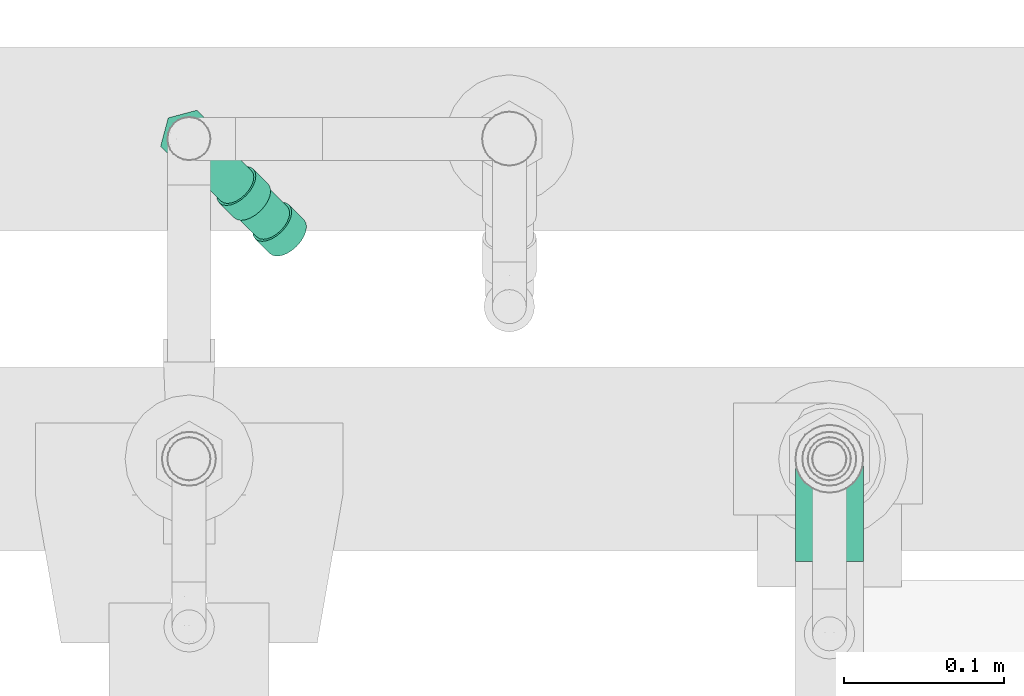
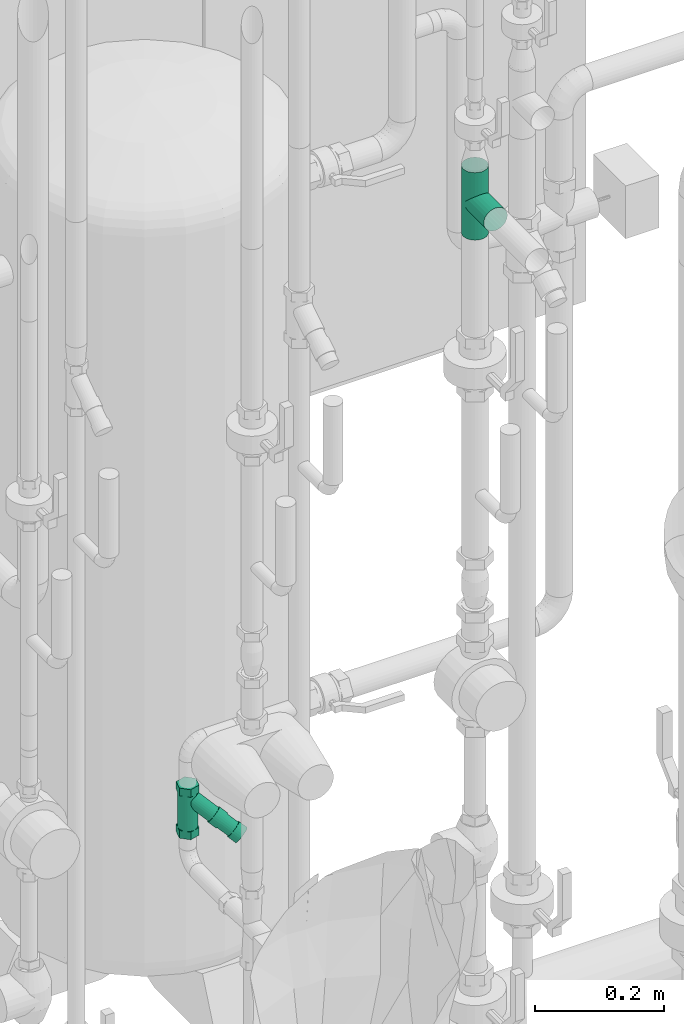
# One storey, part 105 of 374: 1 flow fitting, 1 flow treatment device.
"""IFC2X3 building model written with IfcOpenShell, lengths in metres."""

import ifcopenshell
import ifcopenshell.guid

model = None  # the IFC model being written
_history = None  # IfcOwnerHistory: only IFC2X3 demands one
_inside = {}  # id of a spatial element -> (the spatial element, [elements in it])
_under = {}  # id of a project, library or spatial element -> (it, [spatial elements below it])
_declared = {}  # id of a project -> (the project, [libraries it declares])
_typed = {}  # id of a type object -> (the type object, [elements of that type])
_made_of = {}  # id of a material, layer set ... -> (it, [elements and type objects made of it])


def new_model(schema):
    """Start an empty IFC model of exactly this schema.

    Asked for "IFC4X3", IfcOpenShell would pick the latest addendum, in which some entities
    have other attributes; the version numbers below select the first issue.
    IFC2X3 requires an IfcOwnerHistory on every rooted entity: one is made here for all.
    """
    global model, _history
    if schema == "IFC4X3":
        model = ifcopenshell.file(schema_version=(4, 3, 0, 0))
    else:
        model = ifcopenshell.file(schema=schema)
    _inside.clear()
    _under.clear()
    _declared.clear()
    _typed.clear()
    _made_of.clear()
    _history = None
    if model.schema == "IFC2X3":
        org = make("IfcOrganization", Name="unknown")
        user = make(
            "IfcPersonAndOrganization",
            ThePerson=make("IfcPerson", FamilyName="unknown"),
            TheOrganization=org,
        )
        app = make(
            "IfcApplication",
            ApplicationDeveloper=org,
            Version="unknown",
            ApplicationFullName="unknown",
            ApplicationIdentifier="unknown",
        )
        _history = make(
            "IfcOwnerHistory",
            OwningUser=user,
            OwningApplication=app,
            ChangeAction="ADDED",
            CreationDate=0,
        )
    return model


def make(cls, **values):
    """One entity of the class cls with the attributes given. An attribute that is None is left unset."""
    return model.create_entity(
        cls, **{name: value for name, value in values.items() if value is not None}
    )


def rooted(cls, **values):
    """An entity with a GlobalId (a new one), such as an element, a storey or a relation."""
    return make(cls, GlobalId=ifcopenshell.guid.new(), OwnerHistory=_history, **values)


def si_unit(unit_type, name, prefix=None):
    """IfcSIUnit, for example si_unit("LENGTHUNIT", "METRE", prefix="MILLI")."""
    return make("IfcSIUnit", UnitType=unit_type, Prefix=prefix, Name=name)


def assignment(units):
    """IfcUnitAssignment: the units of a project."""
    return None if units is None else make("IfcUnitAssignment", Units=units)


def point(xyz):
    """IfcCartesianPoint."""
    return None if xyz is None else make("IfcCartesianPoint", Coordinates=xyz)


def direction(xyz):
    """IfcDirection."""
    return None if xyz is None else make("IfcDirection", DirectionRatios=xyz)


def frame(location, z_axis=None, x_axis=None):
    """IfcAxis2Placement3D, a coordinate frame: its origin and axes. An axis left out is left unset."""
    return make(
        "IfcAxis2Placement3D",
        Location=point(location),
        Axis=direction(z_axis),
        RefDirection=direction(x_axis),
    )


def origin():
    """The frame at (0, 0, 0) with its axes left unset."""
    return frame((0.0, 0.0, 0.0))


def place(relative_to, where):
    """IfcLocalPlacement: puts the frame where relative to a parent placement (None: the world)."""
    return make(
        "IfcLocalPlacement", PlacementRelTo=relative_to, RelativePlacement=where
    )


def context(
    kind, dimensions, precision=None, world=None, true_north=None, identifier=None
):
    """IfcGeometricRepresentationContext, for example the 3D "Model" context."""
    return make(
        "IfcGeometricRepresentationContext",
        ContextIdentifier=identifier,
        ContextType=kind,
        CoordinateSpaceDimension=dimensions,
        Precision=precision,
        WorldCoordinateSystem=world,
        TrueNorth=true_north,
    )


def subcontext(parent, identifier, kind, view, scale=None):
    """IfcGeometricRepresentationSubContext, for example "Body" below "Model"."""
    return make(
        "IfcGeometricRepresentationSubContext",
        ContextIdentifier=identifier,
        ContextType=kind,
        ParentContext=parent,
        TargetScale=scale,
        TargetView=view,
    )


def project(units=None, contexts=None):
    """IfcProject with its units and contexts."""
    return rooted(
        "IfcProject",
        Name="project",
        RepresentationContexts=contexts,
        UnitsInContext=assignment(units),
    )


def spatial(cls, under=None, at=None, **own):
    """A site, building, storey or space (cls), placed at a placement, below another one or the project."""
    s = rooted(cls, ObjectPlacement=at, **own)
    if under is not None:
        _under.setdefault(under.id(), (under, []))[1].append(s)
    return s


def faces_of(points, faces, orient=None, outer=None):
    """IfcFace entities. A face is a list of loops; a loop is a list of indices into points, from 0.

    orient and outer hold one flag for each loop. By default every Orientation is true, the
    first loop of a face is its IfcFaceOuterBound and the others are IfcFaceBound.
    """
    made = []
    for i, loops in enumerate(faces):
        bounds = []
        for j, loop in enumerate(loops):
            is_outer = j == 0 if outer is None else outer[i][j]
            bounds.append(
                make(
                    "IfcFaceOuterBound" if is_outer else "IfcFaceBound",
                    Bound=make("IfcPolyLoop", Polygon=[points[k] for k in loop]),
                    Orientation=True if orient is None else orient[i][j],
                )
            )
        made.append(make("IfcFace", Bounds=bounds))
    return made


def open_shell(faces, orient=None, outer=None):
    """The faces of one IfcOpenShell. surface_model builds it on its shared points."""
    return ("IfcOpenShell", faces, orient, outer)


def surface_model(cls, points, shells):
    """IfcFaceBasedSurfaceModel or IfcShellBasedSurfaceModel (cls): surfaces that need not close."""
    shared = [point(p) for p in points]
    made = [make(c, CfsFaces=faces_of(shared, fs, o, b)) for c, fs, o, b in shells]
    if cls == "IfcFaceBasedSurfaceModel":
        return make(cls, FbsmFaces=made)
    return make(cls, SbsmBoundary=made)


def shape(context_of_items, identifier, shape_type, items):
    """IfcShapeRepresentation: the items that make up one representation, for example the "Body"."""
    return make(
        "IfcShapeRepresentation",
        ContextOfItems=context_of_items,
        RepresentationIdentifier=identifier,
        RepresentationType=shape_type,
        Items=items,
    )


def source(mapping_origin, context_of_items, identifier, shape_type, items):
    """IfcRepresentationMap: a shape defined once, which mapped items show again and again."""
    return make(
        "IfcRepresentationMap",
        MappingOrigin=mapping_origin,
        MappedRepresentation=shape(context_of_items, identifier, shape_type, items),
    )


def transform(
    local_origin,
    x_axis=None,
    y_axis=None,
    z_axis=None,
    scale=None,
    scale2=None,
    scale3=None,
    uniform=True,
):
    """IfcCartesianTransformationOperator3D, or its non-uniform kind. x_axis, y_axis, z_axis: its Axis1, 2, 3."""
    if uniform:
        return make(
            "IfcCartesianTransformationOperator3D",
            Axis1=direction(x_axis),
            Axis2=direction(y_axis),
            LocalOrigin=point(local_origin),
            Scale=scale,
            Axis3=direction(z_axis),
        )
    return make(
        "IfcCartesianTransformationOperator3DnonUniform",
        Axis1=direction(x_axis),
        Axis2=direction(y_axis),
        LocalOrigin=point(local_origin),
        Scale=scale,
        Axis3=direction(z_axis),
        Scale2=scale2,
        Scale3=scale3,
    )


def mapped(mapping_source, mapping_target):
    """IfcMappedItem: shows the shape of a source again, moved by a transform."""
    return make(
        "IfcMappedItem", MappingSource=mapping_source, MappingTarget=mapping_target
    )


def made_of(thing, what):
    """Note that an element or type object is made of a material, layer set ...; save() writes the relation."""
    if what is not None:
        _made_of.setdefault(what.id(), (what, []))[1].append(thing)
    return thing


def element(
    cls,
    number,
    at=None,
    inside=None,
    cuts=None,
    type_object=None,
    material=None,
    context=None,
    identifier="Body",
    shape_type=None,
    held_by="IfcProductDefinitionShape",
    body=None,
    shapes=None,
    **own,
):
    """One element of the class cls, such as IfcWall. Its Tag is "e" and its number.

    at: its placement. inside: the storey or other place that contains it. cuts: it is an
    opening in that element (IfcRelVoidsElement). A single representation is given by context,
    identifier, shape_type and body (its items); several are given by shapes. held_by: the class
    of the entity that holds the representations. save() writes the other relations.
    """
    e = rooted(cls, Tag="e%d" % number, ObjectPlacement=at, **own)
    if body is not None:
        shapes = [shape(context, identifier, shape_type, body)]
    if shapes is not None:
        e.Representation = make(held_by, Representations=shapes)
    if inside is not None:
        _inside.setdefault(inside.id(), (inside, []))[1].append(e)
    if cuts is not None:
        rooted(
            "IfcRelVoidsElement", RelatingBuildingElement=cuts, RelatedOpeningElement=e
        )
    if type_object is not None:
        _typed.setdefault(type_object.id(), (type_object, []))[1].append(e)
    return made_of(e, material)


def aggregate(whole, parts):
    """IfcRelAggregates: a whole, such as a stair, and the parts it consists of."""
    return rooted("IfcRelAggregates", RelatingObject=whole, RelatedObjects=parts)


def save(model, path):
    """Write the relations noted so far, then the file.

    IfcRelAggregates (storeys below a building ...), IfcRelContainedInSpatialStructure (elements
    in a storey), IfcRelDefinesByType, IfcRelAssociatesMaterial and IfcRelDeclares: one each for
    every whole, place, type object, material and project.
    """
    for whole, parts in _under.values():
        aggregate(whole, parts)
    for where, things in _inside.values():
        rooted(
            "IfcRelContainedInSpatialStructure",
            RelatedElements=things,
            RelatingStructure=where,
        )
    for kind, things in _typed.values():
        rooted("IfcRelDefinesByType", RelatedObjects=things, RelatingType=kind)
    for what, things in _made_of.values():
        rooted("IfcRelAssociatesMaterial", RelatedObjects=things, RelatingMaterial=what)
    for by, libraries in _declared.values():
        rooted("IfcRelDeclares", RelatingContext=by, RelatedDefinitions=libraries)
    model.write(path)


model = new_model("IFC2X3")

# Units and contexts
model_context = context("Model", 3, precision=1e-05, world=origin(), true_north=direction((-0.4480736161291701, 0.8939966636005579)))
body_context = subcontext(model_context, "Body", "Model", "MODEL_VIEW")
ifc_project = project(units=[si_unit("LENGTHUNIT", "METRE"), si_unit("AREAUNIT", "SQUARE_METRE"), si_unit("VOLUMEUNIT", "CUBIC_METRE"), si_unit("PLANEANGLEUNIT", "RADIAN"), si_unit("THERMODYNAMICTEMPERATUREUNIT", "KELVIN"), si_unit("MASSUNIT", "GRAM", prefix="KILO"), si_unit("TIMEUNIT", "SECOND")], contexts=[model_context])

# Site, building, storey
site_placement = place(None, origin())
site = spatial("IfcSite", under=ifc_project, at=site_placement, Name="Site 1", CompositionType="ELEMENT")
building_placement = place(site_placement, origin())
building = spatial("IfcBuilding", under=site, at=building_placement, Name="Undefined", CompositionType="ELEMENT")
storey_placement = place(building_placement, origin())
storey = spatial("IfcBuildingStorey", under=building, at=storey_placement, Name="Rez de chauss\x8ee", CompositionType="ELEMENT", Elevation=0.0)

# Flow treatment device
shared_shape_1 = source(origin(), body_context, "Body", "SurfaceModel", [
    surface_model("IfcFaceBasedSurfaceModel", [(0.0, 0.0035111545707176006, 0.0), (0.0, 0.0, 0.0), (0.02585578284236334, 7.105427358e-15, 0.0), (0.024975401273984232, 0.003511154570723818, -3.552713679e-15), (0.0, -0.003391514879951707, -0.0009087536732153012), (0.028436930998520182, -0.003391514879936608, -0.0009087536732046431), (0.0, -0.006432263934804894, -0.0026643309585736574), (0.03254294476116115, -0.006432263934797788, -0.0026643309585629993), (0.0, -0.00891502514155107, -0.005147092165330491), (0.03789400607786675, -0.008915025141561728, -0.005147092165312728), (0.0, -0.010670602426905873, -0.008187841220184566), (0.04412544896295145, -0.010670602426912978, -0.008187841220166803), (0.0, -0.011579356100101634, -0.01157935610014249), (0.050812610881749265, -0.011579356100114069, -0.011579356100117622), (0.0, -0.011579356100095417, -0.015090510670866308), (0.04900045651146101, -0.011579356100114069, -0.015090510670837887), (0.0, -0.010670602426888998, -0.018482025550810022), (0.04731179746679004, -0.010670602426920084, -0.018482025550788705), (0.0, -0.008915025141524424, -0.021522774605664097), (0.04586171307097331, -0.008915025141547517, -0.021522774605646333), (0.0, -0.006432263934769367, -0.02400553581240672), (0.04474902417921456, -0.006432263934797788, -0.024005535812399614), (0.0, -0.0033915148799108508, -0.025761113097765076), (0.04404955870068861, -0.003391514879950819, -0.025761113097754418), (0.0, 4.2632564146e-14, -0.026669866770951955), (0.04381098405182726, 7.105427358e-15, -0.02666986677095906), (0.0, 0.0035111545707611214, -0.026669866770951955), (0.04404955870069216, 0.0035111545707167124, -0.026669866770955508), (0.0, 0.006902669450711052, -0.02576111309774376), (0.04474902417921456, 0.006902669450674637, -0.025761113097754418), (0.0, 0.00994341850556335, -0.024005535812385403), (0.04586171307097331, 0.009943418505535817, -0.02400553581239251), (0.0, 0.012426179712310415, -0.02152277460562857), (0.04731179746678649, 0.012426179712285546, -0.021522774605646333), (0.0, 0.014181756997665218, -0.018482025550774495), (0.04900045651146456, 0.014181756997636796, -0.018482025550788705), (0.0, 0.015090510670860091, -0.01509051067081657), (0.050812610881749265, 0.015090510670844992, -0.015090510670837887), (0.0, 0.015090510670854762, -0.011579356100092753), (0.044125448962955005, 0.015090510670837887, -0.011579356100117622), (0.0, 0.014181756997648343, -0.00818784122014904), (0.037894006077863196, 0.014181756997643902, -0.008187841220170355), (0.0, 0.012426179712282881, -0.005147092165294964), (0.03254294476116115, 0.012426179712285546, -0.005147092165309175), (0.0, 0.009943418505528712, -0.002664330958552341), (0.028436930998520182, 0.009943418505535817, -0.0026643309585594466), (0.0, 0.006902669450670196, -0.0009087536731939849), (0.025855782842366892, 0.006902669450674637, -0.0009087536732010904), (0.07112295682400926, -0.015791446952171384, -0.02403705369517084), (0.05598895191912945, -0.01717462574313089, -0.034543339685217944), (0.047672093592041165, -0.015624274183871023, -0.022767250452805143), (0.06280609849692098, -0.014241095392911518, -0.01226096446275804), (0.07868995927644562, 0.000763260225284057, -0.020872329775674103), (0.07037310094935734, 0.002313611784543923, -0.00909624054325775), (0.07112295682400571, 0.0159347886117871, -0.028213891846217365), (0.06280609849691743, 0.017485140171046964, -0.01643780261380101), (0.055988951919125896, 0.014551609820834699, -0.03872017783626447), (0.04767209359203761, 0.016101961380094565, -0.026944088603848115), (0.048421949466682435, -0.002003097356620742, -0.04188490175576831), (0.04010509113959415, -0.00045274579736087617, -0.030108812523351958), (0.05523909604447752, 0.016793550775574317, -0.021690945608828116), (0.05184690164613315, 0.01594299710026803, -0.023974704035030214), (0.013990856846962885, 0.0229997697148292, 0.029626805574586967), (0.017383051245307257, 0.023850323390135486, 0.031910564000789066), (0.048685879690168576, 0.014069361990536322, -0.025960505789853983), (0.010829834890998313, 0.02112613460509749, 0.0276410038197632), (0.04597144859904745, 0.011300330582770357, -0.02751302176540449), (0.008115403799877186, 0.018357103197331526, 0.026088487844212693), (0.04388859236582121, 0.007824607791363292, -0.028526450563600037), (0.006032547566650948, 0.01488138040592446, 0.025075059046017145), (0.042579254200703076, 0.0038790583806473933, -0.028931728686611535), (0.004723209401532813, 0.010935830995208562, 0.024669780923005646), (0.04213266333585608, -0.0002674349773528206, -0.028701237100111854), (0.004276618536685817, 0.006789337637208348, 0.024900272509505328), (0.04257925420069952, -0.004332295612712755, -0.02785068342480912), (0.00472320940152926, 0.0027244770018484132, 0.025750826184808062), (0.04388859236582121, -0.008038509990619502, -0.026438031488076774), (0.006032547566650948, -0.0009817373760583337, 0.027163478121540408), (0.04597144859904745, -0.011133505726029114, -0.024559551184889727), (0.008115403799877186, -0.004076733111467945, 0.029041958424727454), (0.048685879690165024, -0.01340636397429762, -0.022343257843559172), (0.01082983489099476, -0.006349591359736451, 0.03125825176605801), (0.05184690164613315, -0.014702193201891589, -0.019940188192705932), (0.013990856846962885, -0.00764542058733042, 0.03366132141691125), (0.05523909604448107, -0.01493268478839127, -0.01751410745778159), (0.01738305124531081, -0.007875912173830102, 0.03608740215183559), (0.058631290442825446, -0.014082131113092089, -0.015230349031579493), (0.020775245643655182, -0.00702535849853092, 0.03837116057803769), (0.06179231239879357, -0.01220849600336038, -0.013244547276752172), (0.023936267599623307, -0.005151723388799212, 0.04035696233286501), (0.0645067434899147, -0.00943946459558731, -0.011692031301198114), (0.026650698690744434, -0.0023826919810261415, 0.04190947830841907), (0.06658959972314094, -0.005963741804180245, -0.010678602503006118), (0.028733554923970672, 0.0010930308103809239, 0.04292290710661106), (0.06789893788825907, -0.0020181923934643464, -0.010273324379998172), (0.030042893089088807, 0.005038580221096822, 0.04332818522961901), (0.06834552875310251, 0.0021283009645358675, -0.010503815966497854), (0.03048948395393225, 0.009185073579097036, 0.04309769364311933), (0.06789893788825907, 0.006193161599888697, -0.011354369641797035), (0.030042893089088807, 0.013249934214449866, 0.042247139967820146), (0.06658959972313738, 0.00989937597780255, -0.01276702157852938), (0.02873355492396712, 0.016956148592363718, 0.0408344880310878), (0.0645067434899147, 0.012994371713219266, -0.014645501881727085), (0.026650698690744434, 0.020051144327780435, 0.038956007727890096), (0.06179231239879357, 0.015267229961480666, -0.016861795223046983), (0.023936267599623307, 0.022324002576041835, 0.0367397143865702), (0.058631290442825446, 0.01656305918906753, -0.019264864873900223), (0.020775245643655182, 0.0236198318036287, 0.03433664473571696), (0.024950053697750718, -0.007184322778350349, 0.04134054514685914), (0.009816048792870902, -0.008567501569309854, 0.03083425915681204), (0.0014991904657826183, -0.007017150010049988, 0.04261034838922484), (0.016633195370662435, -0.005633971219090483, 0.05311663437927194), (0.032517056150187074, 0.009370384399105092, 0.04450526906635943), (0.02420019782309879, 0.010920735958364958, 0.05628135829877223), (0.024950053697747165, 0.024541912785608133, 0.03716370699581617), (0.016633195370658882, 0.026092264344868, 0.04893979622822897), (0.009816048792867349, 0.023158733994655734, 0.026657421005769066), (0.0014991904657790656, 0.0247090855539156, 0.03843351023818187), (0.002249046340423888, 0.0066040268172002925, 0.023492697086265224), (-0.006067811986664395, 0.008154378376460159, 0.035268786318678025), (0.0, 0.016627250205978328, -0.015292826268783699), (3.552713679e-15, 0.015613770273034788, -0.01907518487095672), (-0.015999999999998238, 0.015613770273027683, -0.01907518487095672), (-0.01600000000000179, 0.016627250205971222, -0.015292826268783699), (3.552713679e-15, 0.01365587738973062, -0.022466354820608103), (-0.015999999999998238, 0.013655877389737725, -0.022466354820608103), (0.0, 0.010886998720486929, -0.02523523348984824), (-0.01600000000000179, 0.01088699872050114, -0.02523523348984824), (0.0, 0.007495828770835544, -0.027193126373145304), (-0.015999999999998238, 0.00749582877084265, -0.027193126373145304), (3.552713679e-15, 0.003713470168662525, -0.028206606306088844), (-0.015999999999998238, 0.0037134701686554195, -0.028206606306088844), (0.0, -0.00020231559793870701, -0.028206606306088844), (-0.015999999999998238, -0.00020231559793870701, -0.02820660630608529), (3.552713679e-15, -0.003984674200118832, -0.027193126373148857), (-0.016000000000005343, -0.003984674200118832, -0.027193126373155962), (0.0, -0.0073758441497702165, -0.02523523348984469), (-0.01600000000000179, -0.007375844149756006, -0.02523523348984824), (0.0, -0.010144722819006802, -0.022466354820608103), (-0.01600000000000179, -0.010144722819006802, -0.022466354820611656), (0.0, -0.012102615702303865, -0.019075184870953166), (-0.015999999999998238, -0.01210261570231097, -0.019075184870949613), (-3.552713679e-15, -0.013116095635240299, -0.015292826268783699), (-0.01600000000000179, -0.013116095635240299, -0.015292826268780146), (3.552713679e-15, -0.013116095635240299, -0.011377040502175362), (-0.015999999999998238, -0.013116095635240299, -0.011377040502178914), (-3.552713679e-15, -0.01210261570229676, -0.007594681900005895), (-0.01600000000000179, -0.012102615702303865, -0.007594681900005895), (3.552713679e-15, -0.010144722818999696, -0.004203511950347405), (-0.01600000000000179, -0.010144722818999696, -0.004203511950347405), (3.552713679e-15, -0.007375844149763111, -0.0014346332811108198), (-0.01600000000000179, -0.007375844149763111, -0.0014346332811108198), (-3.552713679e-15, -0.003984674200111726, 0.0005232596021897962), (-0.01600000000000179, -0.003984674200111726, 0.0005232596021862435), (-3.552713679e-15, -0.0002023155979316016, 0.0015367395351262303), (-0.016000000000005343, -0.0002023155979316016, 0.0015367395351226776), (0.0, 0.0037134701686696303, 0.001536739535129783), (-0.01600000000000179, 0.003713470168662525, 0.001536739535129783), (-3.552713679e-15, 0.00749582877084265, 0.0005232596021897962), (-0.01600000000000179, 0.00749582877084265, 0.0005232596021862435), (0.0, 0.01088699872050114, -0.0014346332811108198), (-0.015999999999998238, 0.010886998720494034, -0.0014346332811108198), (0.0, 0.013655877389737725, -0.004203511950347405), (-0.01600000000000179, 0.013655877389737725, -0.004203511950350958), (-3.552713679e-15, 0.015613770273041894, -0.0075946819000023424), (-0.01600000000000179, 0.015613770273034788, -0.007594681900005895), (0.0, 0.016627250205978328, -0.011377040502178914), (-0.01600000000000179, 0.016627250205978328, -0.011377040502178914), (3.552713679e-15, 0.0017555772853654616, -0.01333493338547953), (-0.015999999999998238, 0.0017555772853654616, -0.01333493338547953), (-0.01600000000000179, 0.015090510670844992, -0.01509051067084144), (-0.01600000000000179, 0.014181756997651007, -0.018482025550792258), (-0.03865786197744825, 0.014181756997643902, -0.018482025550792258), (-0.03865786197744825, 0.015090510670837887, -0.01509051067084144), (-0.015999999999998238, 0.012426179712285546, -0.021522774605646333), (-0.038657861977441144, 0.012426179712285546, -0.021522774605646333), (-0.015999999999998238, 0.009943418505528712, -0.02400553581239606), (-0.038657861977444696, 0.009943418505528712, -0.02400553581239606), (-0.01600000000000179, 0.006902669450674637, -0.02576111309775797), (-0.03865786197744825, 0.006902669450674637, -0.025761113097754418), (-0.015999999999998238, 0.003511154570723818, -0.026669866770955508), (-0.038657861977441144, 0.0035111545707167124, -0.02666986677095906), (-0.01600000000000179, 0.0, -0.02666986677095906), (-0.038657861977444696, 7.105427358e-15, -0.026669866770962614), (-0.016000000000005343, -0.0033915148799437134, -0.02576111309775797), (-0.03865786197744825, -0.003391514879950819, -0.02576111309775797), (-0.01600000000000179, -0.006432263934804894, -0.02400553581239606), (-0.03865786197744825, -0.006432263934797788, -0.024005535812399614), (-0.016000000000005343, -0.008915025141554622, -0.021522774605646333), (-0.03865786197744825, -0.008915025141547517, -0.021522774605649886), (-0.015999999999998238, -0.010670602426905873, -0.018482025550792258), (-0.03865786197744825, -0.010670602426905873, -0.018482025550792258), (-0.015999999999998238, -0.011579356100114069, -0.015090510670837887), (-0.03865786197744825, -0.011579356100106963, -0.01509051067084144), (-0.015999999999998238, -0.011579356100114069, -0.011579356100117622), (-0.038657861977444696, -0.011579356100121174, -0.011579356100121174), (-0.01600000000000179, -0.010670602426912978, -0.008187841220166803), (-0.038657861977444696, -0.010670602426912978, -0.008187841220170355), (-0.01600000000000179, -0.008915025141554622, -0.0051470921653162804), (-0.0386578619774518, -0.008915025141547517, -0.0051470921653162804), (-0.01600000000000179, -0.006432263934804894, -0.0026643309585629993), (-0.038657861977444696, -0.006432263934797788, -0.0026643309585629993), (-0.015999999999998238, -0.003391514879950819, -0.0009087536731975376), (-0.038657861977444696, -0.0033915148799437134, -0.0009087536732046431), (-0.015999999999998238, 0.0, 0.0), (-0.03865786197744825, 7.105427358e-15, -3.552713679e-15), (-0.015999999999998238, 0.003511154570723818, 0.0), (-0.03865786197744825, 0.0035111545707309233, -7.105427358e-15), (-0.01600000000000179, 0.006902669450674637, -0.0009087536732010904), (-0.038657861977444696, 0.006902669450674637, -0.0009087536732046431), (-0.01600000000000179, 0.009943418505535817, -0.0026643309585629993), (-0.038657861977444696, 0.009943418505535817, -0.0026643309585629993), (-0.01600000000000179, 0.012426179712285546, -0.0051470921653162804), (-0.038657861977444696, 0.012426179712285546, -0.005147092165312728), (-0.015999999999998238, 0.014181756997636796, -0.008187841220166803), (-0.038657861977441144, 0.014181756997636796, -0.008187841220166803), (-0.01600000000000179, 0.015090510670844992, -0.011579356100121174), (-0.038657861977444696, 0.015090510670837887, -0.011579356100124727), (-0.03865786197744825, 0.016627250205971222, -0.015292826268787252), (-0.03865786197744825, 0.015613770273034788, -0.01907518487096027), (-0.054657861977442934, 0.015613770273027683, -0.01907518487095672), (-0.05465786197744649, 0.016627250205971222, -0.015292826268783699), (-0.03865786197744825, 0.01365587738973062, -0.022466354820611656), (-0.054657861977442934, 0.01365587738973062, -0.022466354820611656), (-0.038657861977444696, 0.010886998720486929, -0.02523523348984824), (-0.05465786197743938, 0.010886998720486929, -0.02523523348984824), (-0.03865786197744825, 0.007495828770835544, -0.02719312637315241), (-0.054657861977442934, 0.007495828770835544, -0.027193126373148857), (-0.03865786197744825, 0.003713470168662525, -0.02820660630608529), (-0.05465786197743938, 0.003713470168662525, -0.02820660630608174), (-0.03865786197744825, -0.00020231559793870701, -0.02820660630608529), (-0.054657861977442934, -0.00020231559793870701, -0.02820660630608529), (-0.0386578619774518, -0.003984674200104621, -0.02719312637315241), (-0.054657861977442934, -0.003984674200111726, -0.027193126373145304), (-0.038657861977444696, -0.0073758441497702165, -0.025235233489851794), (-0.05465786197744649, -0.0073758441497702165, -0.02523523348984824), (-0.038657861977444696, -0.010144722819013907, -0.022466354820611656), (-0.054657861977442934, -0.010144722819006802, -0.022466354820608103), (-0.03865786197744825, -0.01210261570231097, -0.019075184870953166), (-0.054657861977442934, -0.01210261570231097, -0.019075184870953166), (-0.03865786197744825, -0.013116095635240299, -0.015292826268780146), (-0.054657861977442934, -0.013116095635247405, -0.015292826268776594), (-0.03865786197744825, -0.013116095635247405, -0.011377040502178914), (-0.054657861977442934, -0.01311609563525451, -0.011377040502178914), (-0.03865786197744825, -0.012102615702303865, -0.007594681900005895), (-0.054657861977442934, -0.012102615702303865, -0.0075946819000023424), (-0.03865786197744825, -0.010144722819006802, -0.004203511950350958), (-0.05465786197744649, -0.010144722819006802, -0.004203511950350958), (-0.03865786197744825, -0.007375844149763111, -0.0014346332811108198), (-0.054657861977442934, -0.0073758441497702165, -0.0014346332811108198), (-0.038657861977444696, -0.003984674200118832, 0.0005232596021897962), (-0.05465786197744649, -0.003984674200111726, 0.0005232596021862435), (-0.03865786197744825, -0.0002023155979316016, 0.0015367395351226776), (-0.05465786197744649, -0.00020231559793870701, 0.0015367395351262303), (-0.038657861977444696, 0.003713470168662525, 0.0015367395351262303), (-0.054657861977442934, 0.003713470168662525, 0.001536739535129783), (-0.038657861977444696, 0.00749582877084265, 0.0005232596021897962), (-0.054657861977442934, 0.007495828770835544, 0.0005232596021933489), (-0.038657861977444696, 0.010886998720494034, -0.0014346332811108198), (-0.054657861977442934, 0.010886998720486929, -0.0014346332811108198), (-0.038657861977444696, 0.01365587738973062, -0.004203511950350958), (-0.054657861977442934, 0.01365587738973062, -0.004203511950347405), (-0.03865786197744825, 0.015613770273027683, -0.007594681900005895), (-0.05465786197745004, 0.015613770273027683, -0.007594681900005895), (-0.038657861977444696, 0.016627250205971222, -0.011377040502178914), (-0.054657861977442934, 0.016627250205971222, -0.011377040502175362), (-0.03865786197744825, 0.0017555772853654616, -0.013334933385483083), (-0.05465786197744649, 0.0017555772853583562, -0.013334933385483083)], [open_shell([[[0, 1, 2, 3]], [[1, 4, 5, 2]], [[4, 6, 7, 5]], [[6, 8, 9, 7]], [[8, 10, 11, 9]], [[10, 12, 13, 11]], [[12, 14, 15, 13]], [[14, 16, 17, 15]], [[16, 18, 19, 17]], [[18, 20, 21, 19]], [[20, 22, 23, 21]], [[22, 24, 25, 23]], [[24, 26, 27, 25]], [[26, 28, 29, 27]], [[28, 30, 31, 29]], [[30, 32, 33, 31]], [[32, 34, 35, 33]], [[34, 36, 37, 35]], [[36, 38, 39, 37]], [[38, 40, 41, 39]], [[40, 42, 43, 41]], [[42, 44, 45, 43]], [[44, 46, 47, 45]], [[46, 0, 3, 47]], [[48, 49, 50, 51]], [[52, 48, 51, 53]], [[54, 52, 53, 55]], [[56, 54, 55, 57]], [[58, 56, 57, 59]], [[49, 58, 59, 50]], [[49, 48, 52]], [[49, 52, 54]], [[49, 54, 56]], [[49, 56, 58]], [[50, 53, 51]], [[50, 55, 53]], [[50, 57, 55]], [[50, 59, 57]], [[60, 61, 62, 63]], [[61, 64, 65, 62]], [[64, 66, 67, 65]], [[66, 68, 69, 67]], [[68, 70, 71, 69]], [[70, 72, 73, 71]], [[72, 74, 75, 73]], [[74, 76, 77, 75]], [[76, 78, 79, 77]], [[78, 80, 81, 79]], [[80, 82, 83, 81]], [[82, 84, 85, 83]], [[84, 86, 87, 85]], [[86, 88, 89, 87]], [[88, 90, 91, 89]], [[90, 92, 93, 91]], [[92, 94, 95, 93]], [[94, 96, 97, 95]], [[96, 98, 99, 97]], [[98, 100, 101, 99]], [[100, 102, 103, 101]], [[102, 104, 105, 103]], [[104, 106, 107, 105]], [[106, 60, 63, 107]], [[108, 109, 110, 111]], [[112, 108, 111, 113]], [[114, 112, 113, 115]], [[116, 114, 115, 117]], [[118, 116, 117, 119]], [[109, 118, 119, 110]], [[109, 108, 112]], [[109, 112, 114]], [[109, 114, 116]], [[109, 116, 118]], [[110, 113, 111]], [[110, 115, 113]], [[110, 117, 115]], [[110, 119, 117]], [[120, 121, 122, 123]], [[121, 124, 125, 122]], [[124, 126, 127, 125]], [[126, 128, 129, 127]], [[128, 130, 131, 129]], [[130, 132, 133, 131]], [[132, 134, 135, 133]], [[134, 136, 137, 135]], [[136, 138, 139, 137]], [[138, 140, 141, 139]], [[140, 142, 143, 141]], [[142, 144, 145, 143]], [[144, 146, 147, 145]], [[146, 148, 149, 147]], [[148, 150, 151, 149]], [[150, 152, 153, 151]], [[152, 154, 155, 153]], [[154, 156, 157, 155]], [[156, 158, 159, 157]], [[158, 160, 161, 159]], [[160, 162, 163, 161]], [[162, 164, 165, 163]], [[164, 166, 167, 165]], [[166, 120, 123, 167]], [[168, 121, 120]], [[168, 124, 121]], [[168, 126, 124]], [[168, 128, 126]], [[168, 130, 128]], [[168, 132, 130]], [[168, 134, 132]], [[168, 136, 134]], [[168, 138, 136]], [[168, 140, 138]], [[168, 142, 140]], [[168, 144, 142]], [[168, 146, 144]], [[168, 148, 146]], [[168, 150, 148]], [[168, 152, 150]], [[168, 154, 152]], [[168, 156, 154]], [[168, 158, 156]], [[168, 160, 158]], [[168, 162, 160]], [[168, 164, 162]], [[168, 166, 164]], [[168, 120, 166]], [[169, 167, 123]], [[169, 165, 167]], [[169, 163, 165]], [[169, 161, 163]], [[169, 159, 161]], [[169, 157, 159]], [[169, 155, 157]], [[169, 153, 155]], [[169, 151, 153]], [[169, 149, 151]], [[169, 147, 149]], [[169, 145, 147]], [[169, 143, 145]], [[169, 141, 143]], [[169, 139, 141]], [[169, 137, 139]], [[169, 135, 137]], [[169, 133, 135]], [[169, 131, 133]], [[169, 129, 131]], [[169, 127, 129]], [[169, 125, 127]], [[169, 122, 125]], [[169, 123, 122]], [[170, 171, 172, 173]], [[171, 174, 175, 172]], [[174, 176, 177, 175]], [[176, 178, 179, 177]], [[178, 180, 181, 179]], [[180, 182, 183, 181]], [[182, 184, 185, 183]], [[184, 186, 187, 185]], [[186, 188, 189, 187]], [[188, 190, 191, 189]], [[190, 192, 193, 191]], [[192, 194, 195, 193]], [[194, 196, 197, 195]], [[196, 198, 199, 197]], [[198, 200, 201, 199]], [[200, 202, 203, 201]], [[202, 204, 205, 203]], [[204, 206, 207, 205]], [[206, 208, 209, 207]], [[208, 210, 211, 209]], [[210, 212, 213, 211]], [[212, 214, 215, 213]], [[214, 216, 217, 215]], [[216, 170, 173, 217]], [[218, 219, 220, 221]], [[219, 222, 223, 220]], [[222, 224, 225, 223]], [[224, 226, 227, 225]], [[226, 228, 229, 227]], [[228, 230, 231, 229]], [[230, 232, 233, 231]], [[232, 234, 235, 233]], [[234, 236, 237, 235]], [[236, 238, 239, 237]], [[238, 240, 241, 239]], [[240, 242, 243, 241]], [[242, 244, 245, 243]], [[244, 246, 247, 245]], [[246, 248, 249, 247]], [[248, 250, 251, 249]], [[250, 252, 253, 251]], [[252, 254, 255, 253]], [[254, 256, 257, 255]], [[256, 258, 259, 257]], [[258, 260, 261, 259]], [[260, 262, 263, 261]], [[262, 264, 265, 263]], [[264, 218, 221, 265]], [[266, 219, 218]], [[266, 222, 219]], [[266, 224, 222]], [[266, 226, 224]], [[266, 228, 226]], [[266, 230, 228]], [[266, 232, 230]], [[266, 234, 232]], [[266, 236, 234]], [[266, 238, 236]], [[266, 240, 238]], [[266, 242, 240]], [[266, 244, 242]], [[266, 246, 244]], [[266, 248, 246]], [[266, 250, 248]], [[266, 252, 250]], [[266, 254, 252]], [[266, 256, 254]], [[266, 258, 256]], [[266, 260, 258]], [[266, 262, 260]], [[266, 264, 262]], [[266, 218, 264]], [[267, 265, 221]], [[267, 263, 265]], [[267, 261, 263]], [[267, 259, 261]], [[267, 257, 259]], [[267, 255, 257]], [[267, 253, 255]], [[267, 251, 253]], [[267, 249, 251]], [[267, 247, 249]], [[267, 245, 247]], [[267, 243, 245]], [[267, 241, 243]], [[267, 239, 241]], [[267, 237, 239]], [[267, 235, 237]], [[267, 233, 235]], [[267, 231, 233]], [[267, 229, 231]], [[267, 227, 229]], [[267, 225, 227]], [[267, 223, 225]], [[267, 220, 223]], [[267, 221, 220]]])]),
])
flow_treatment_device_placement = place(storey_placement, origin())
element("IfcFlowTreatmentDevice", 1, at=flow_treatment_device_placement, inside=storey, Name="Filtre en Y", ObjectType="Filtre en Y", context=body_context, shape_type="MappedRepresentation", body=[
    mapped(shared_shape_1, transform((53.279263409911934, 10.891412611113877, 0.8623818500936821), x_axis=(-0.5792279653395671, 0.5792279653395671, 0.5735764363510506), y_axis=(0.648118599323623, 0.7539961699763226, -0.10692079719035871), z_axis=(-0.49440595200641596, 0.30981404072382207, -0.8121440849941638))),
])

# Flow fitting
shared_shape_2 = source(origin(), body_context, "Body", "SurfaceModel", [
    surface_model("IfcFaceBasedSurfaceModel", [(0.0, 0.005534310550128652, 0.0), (0.0, 0.0, 0.0), (0.1280000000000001, -8.8817842e-16, 0.0), (0.1280000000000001, 0.005534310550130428, 0.0), (0.0, -0.00534573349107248, -0.0014323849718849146), (0.1280000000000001, -0.005345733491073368, -0.0014323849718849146), (0.0, -0.010138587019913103, -0.004199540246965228), (0.1280000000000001, -0.010138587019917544, -0.004199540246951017), (0.0, -0.01405193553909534, -0.008112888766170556), (0.1280000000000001, -0.01405193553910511, -0.008112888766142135), (0.0, -0.016819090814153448, -0.012905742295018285), (0.1280000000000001, -0.016819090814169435, -0.012905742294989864), (0.0, -0.018251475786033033, -0.018251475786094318), (0.1280000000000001, -0.01825147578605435, -0.01825147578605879), (0.0, -0.0182514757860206, -0.02378578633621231), (0.1280000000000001, -0.018251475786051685, -0.0237857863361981), (0.0, -0.01681909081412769, -0.029131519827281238), (0.1280000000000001, -0.016819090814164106, -0.029131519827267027), (0.0, -0.014051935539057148, -0.03392437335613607), (0.1280000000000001, -0.014051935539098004, -0.033924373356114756), (0.0, -0.010138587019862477, -0.037837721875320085), (0.1280000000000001, -0.010138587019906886, -0.037837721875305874), (0.0, -0.005345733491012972, -0.040604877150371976), (0.1280000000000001, -0.00534573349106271, -0.04060487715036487), (0.0, 6.4837024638e-14, -0.042037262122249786), (0.1280000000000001, 1.4210854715e-14, -0.04203726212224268), (0.0, 0.005534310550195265, -0.04203726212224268), (0.1280000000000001, 0.005534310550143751, -0.042037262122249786), (0.0, 0.010880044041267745, -0.04060487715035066), (0.1280000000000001, 0.010880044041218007, -0.04060487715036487), (0.0, 0.01567289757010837, -0.03783772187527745), (0.1280000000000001, 0.015672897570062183, -0.03783772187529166), (0.0, 0.019586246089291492, -0.033924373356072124), (0.1280000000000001, 0.01958624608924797, -0.033924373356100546), (0.0, 0.0223534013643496, -0.029131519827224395), (0.1280000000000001, 0.022353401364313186, -0.029131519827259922), (0.0, 0.02378578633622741, -0.023785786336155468), (0.1280000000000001, 0.02378578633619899, -0.023785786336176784), (0.0, 0.023785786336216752, -0.01825147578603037), (0.1280000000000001, 0.023785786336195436, -0.018251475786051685), (0.0, 0.022353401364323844, -0.012905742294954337), (0.1280000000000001, 0.02235340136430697, -0.012905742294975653), (0.0, 0.019586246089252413, -0.008112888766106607), (0.1280000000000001, 0.019586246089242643, -0.008112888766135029), (0.0, 0.015672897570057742, -0.004199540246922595), (0.1280000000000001, 0.015672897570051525, -0.004199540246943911), (0.0, 0.010880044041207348, -0.0014323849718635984), (0.1280000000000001, 0.010880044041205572, -0.0014323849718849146), (0.08519999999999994, -0.06068531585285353, -0.012664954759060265), (0.08447762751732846, -0.0614015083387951, -0.018104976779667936), (0.08447762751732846, -0.018251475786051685, -0.0237857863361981), (0.08519999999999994, -0.01825147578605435, -0.01825147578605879), (0.08235973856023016, -0.062068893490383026, -0.023174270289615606), (0.08235973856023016, -0.016819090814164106, -0.029131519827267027), (0.0789906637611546, -0.06264199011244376, -0.027527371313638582), (0.0789906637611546, -0.014051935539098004, -0.033924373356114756), (0.07459999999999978, -0.06308174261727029, -0.030867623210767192), (0.07459999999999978, -0.010138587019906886, -0.037837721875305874), (0.06948696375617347, -0.06335818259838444, -0.03296739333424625), (0.06948696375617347, -0.00534573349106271, -0.04060487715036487), (0.06400000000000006, -0.06345247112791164, -0.03368358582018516), (0.06400000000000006, 1.4210854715e-14, -0.04203726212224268), (0.058513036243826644, -0.06335818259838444, -0.03296739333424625), (0.058513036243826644, -0.00534573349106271, -0.04060487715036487), (0.05339999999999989, -0.06308174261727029, -0.030867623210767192), (0.05339999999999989, -0.010138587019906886, -0.037837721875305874), (0.04900933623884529, -0.06264199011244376, -0.027527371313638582), (0.04900933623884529, -0.014051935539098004, -0.033924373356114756), (0.045640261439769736, -0.062068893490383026, -0.023174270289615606), (0.045640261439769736, -0.016819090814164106, -0.029131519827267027), (0.043522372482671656, -0.0614015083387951, -0.018104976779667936), (0.043522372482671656, -0.018251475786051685, -0.0237857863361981), (0.04279999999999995, -0.06068531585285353, -0.012664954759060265), (0.04279999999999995, -0.01825147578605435, -0.01825147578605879), (0.043522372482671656, -0.059969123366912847, -0.007224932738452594), (0.043522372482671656, -0.016819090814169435, -0.012905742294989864), (0.045640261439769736, -0.05930173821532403, -0.0021556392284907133), (0.045640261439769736, -0.01405193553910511, -0.008112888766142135), (0.04900933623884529, -0.0587286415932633, 0.002197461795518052), (0.04900933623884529, -0.010138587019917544, -0.004199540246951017), (0.05339999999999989, -0.05828888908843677, 0.005537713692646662), (0.05339999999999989, -0.005345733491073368, -0.0014323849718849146), (0.058513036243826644, -0.05801244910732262, 0.007637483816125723), (0.058513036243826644, -8.8817842e-16, 0.0), (0.06400000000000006, -0.05791816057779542, 0.008353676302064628), (0.06400000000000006, 0.005534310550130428, 0.0), (0.06948696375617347, -0.05801244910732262, 0.007637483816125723), (0.06948696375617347, -8.8817842e-16, 0.0), (0.07459999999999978, -0.05828888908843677, 0.005537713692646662), (0.07459999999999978, -0.005345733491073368, -0.0014323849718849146), (0.0789906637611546, -0.0587286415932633, 0.002197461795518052), (0.0789906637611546, -0.010138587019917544, -0.004199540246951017), (0.08235973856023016, -0.05930173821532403, -0.0021556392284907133), (0.08235973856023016, -0.01405193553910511, -0.008112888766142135), (0.08447762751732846, -0.059969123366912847, -0.007224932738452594), (0.08447762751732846, -0.016819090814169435, -0.012905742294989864)], [open_shell([[[0, 1, 2, 3]], [[1, 4, 5, 2]], [[4, 6, 7, 5]], [[6, 8, 9, 7]], [[8, 10, 11, 9]], [[10, 12, 13, 11]], [[12, 14, 15, 13]], [[14, 16, 17, 15]], [[16, 18, 19, 17]], [[18, 20, 21, 19]], [[20, 22, 23, 21]], [[22, 24, 25, 23]], [[24, 26, 27, 25]], [[26, 28, 29, 27]], [[28, 30, 31, 29]], [[30, 32, 33, 31]], [[32, 34, 35, 33]], [[34, 36, 37, 35]], [[36, 38, 39, 37]], [[38, 40, 41, 39]], [[40, 42, 43, 41]], [[42, 44, 45, 43]], [[44, 46, 47, 45]], [[46, 0, 3, 47]], [[48, 49, 50, 51]], [[49, 52, 53, 50]], [[52, 54, 55, 53]], [[54, 56, 57, 55]], [[56, 58, 59, 57]], [[58, 60, 61, 59]], [[60, 62, 63, 61]], [[62, 64, 65, 63]], [[64, 66, 67, 65]], [[66, 68, 69, 67]], [[68, 70, 71, 69]], [[70, 72, 73, 71]], [[72, 74, 75, 73]], [[74, 76, 77, 75]], [[76, 78, 79, 77]], [[78, 80, 81, 79]], [[80, 82, 83, 81]], [[82, 84, 85, 83]], [[84, 86, 87, 85]], [[86, 88, 89, 87]], [[88, 90, 91, 89]], [[90, 92, 93, 91]], [[92, 94, 95, 93]], [[94, 48, 51, 95]]])]),
])
flow_fitting_placement = place(storey_placement, origin())
element("IfcFlowFitting", 2, at=flow_fitting_placement, inside=storey, Name="Pièce d' embranchement", ObjectType="Pièce d' embranchement", context=body_context, shape_type="MappedRepresentation", body=[
    mapped(shared_shape_2, transform((53.637084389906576, 10.71255008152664, 1.9503203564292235), x_axis=(0.0, 0.0, 1.0), y_axis=(-0.13052619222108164, 0.9914448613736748, 0.0), z_axis=(-0.9914448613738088, -0.13052619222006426, 0.0))),
])

save(model, "model.ifc")
